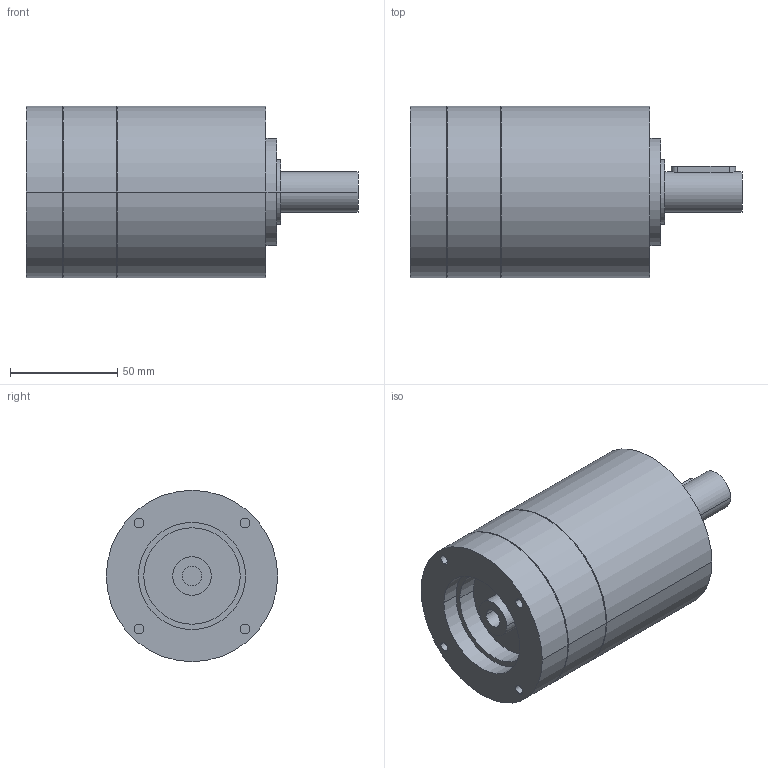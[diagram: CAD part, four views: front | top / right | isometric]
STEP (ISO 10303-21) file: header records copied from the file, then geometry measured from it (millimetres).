
FILE_DESCRIPTION(('CoCreate Modeling STEP Export'),'2;1');
FILE_NAME('GPR100_ig-3-4-5-6_19_B14_9_P15.stp','2014-08-26T10:53:36',(''),(''),'CoCreate Modeling STEP processor for AP214 (Solid Model)','CoCreate Modeling 16.00C 25-Feb-2009 (C) Parametric Technology GmbH','');
FILE_SCHEMA(('AUTOMOTIVE_DESIGN { 1 0 10303 214 1 1 1 1 }'));
Length unit declared in the file: millimetre
Products named in the file (2): GPR100_ig-3-4-5-6_19_B14_9_P15
Assembly tree (1 placements, depth 2):
  GPR100_ig-3-4-5-6_19_B14_9_P15
    GPR100_ig-3-4-5-6_19_B14_9_P15
Bounding box: 155 x 80 x 80 mm (x, y, z)
Volume: 551574 mm3; surface area: 48527.1 mm2
Topology: 1 solids, 1 shells, 80 faces, 203 edges, 145 vertices
Faces by surface type: cylinder 48, plane 26, cone 6
Entity records: 2036 total; most frequent: ORIENTED_EDGE 402, CARTESIAN_POINT 371, DIRECTION 264, EDGE_CURVE 201, VERTEX_POINT 145, AXIS2_PLACEMENT_3D 102, EDGE_LOOP 102, FACE_OUTER_BOUND 80
